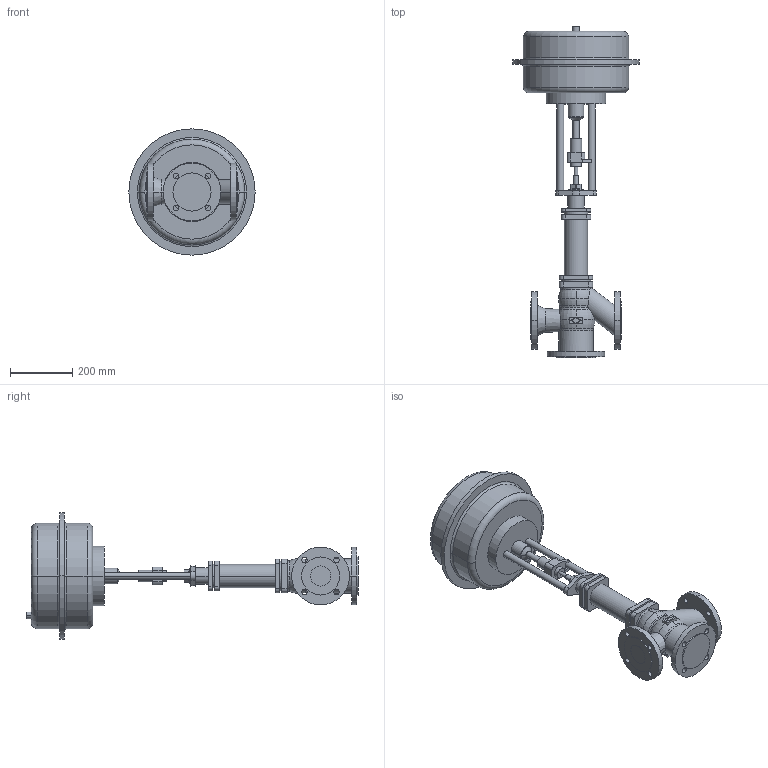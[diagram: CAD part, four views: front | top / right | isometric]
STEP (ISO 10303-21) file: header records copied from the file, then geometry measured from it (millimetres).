
FILE_DESCRIPTION(('OneSpaceDesigner STEP Export'),'2;1');
FILE_NAME('c000000714.stp','2006-09-21T 8:33:37',(''),(''),'OneSpace Designer STEP processor for AP214 (Solid Model)','OneSpace Designer 13.20A 18-Aug-2005 (C) CoCreate Software GmbH','');
FILE_SCHEMA(('AUTOMOTIVE_DESIGN { 1 0 10303 214 1 1 1 1 }'));
Length unit declared in the file: millimetre
Products named in the file (2): 1; 2
Bounding box: 405 x 1064 x 405 mm (x, y, z)
Volume: 25499806.2 mm3; surface area: 959491.3 mm2
Topology: 2 solids, 2 shells, 244 faces, 603 edges, 397 vertices
Faces by surface type: cylinder 114, plane 96, torus 28, cone 6
Entity records: 6646 total; most frequent: CARTESIAN_POINT 1257, ORIENTED_EDGE 1206, DIRECTION 998, EDGE_CURVE 603, VERTEX_POINT 397, AXIS2_PLACEMENT_3D 362, EDGE_LOOP 302, VECTOR 274
